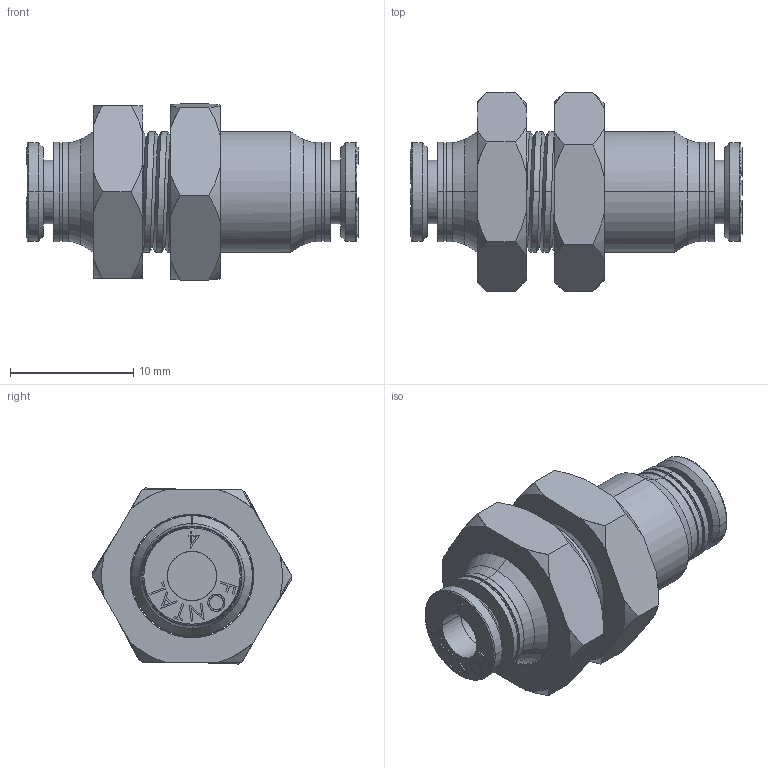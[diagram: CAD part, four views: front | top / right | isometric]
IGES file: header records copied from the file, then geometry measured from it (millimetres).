
Start section: SolidWorks IGES file using analytic representation for surfaces
Global section: file name: D:\Custom\3D繪製\ADDITIONAL\FPM\FPM4.IGS,1; native system: 5HSolidWorks 2014; preprocessor: SolidWorks 2014; author: Chieh_Lu; date: 160115.051401; units: millimetre
Bounding box: 26.9 x 16.17 x 14.27 mm (x, y, z)
Surface area: 2400.8 mm2 (no closed solid volume)
Topology: 0 solids, 0 shells, 283 faces, 3159 edges, 3159 vertices
Faces by surface type: bspline 194, revolution 89
